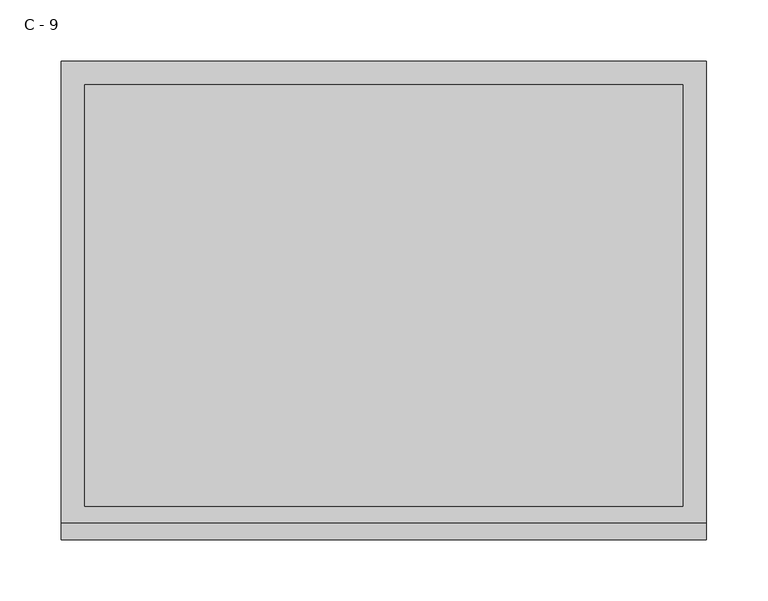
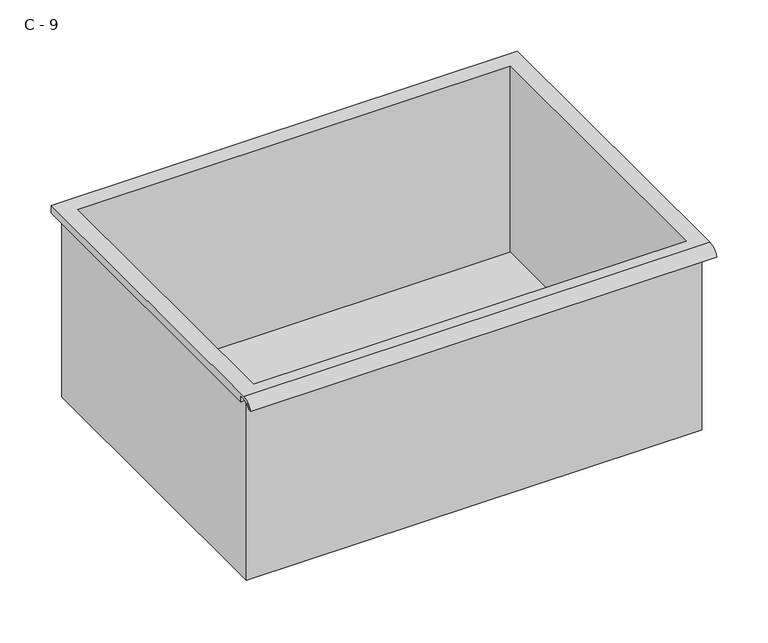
"""IFC4 building model written with IfcOpenShell, lengths in millimetres: furniture geometry, HermanMiller_CoStruc_CO207_Drawer : C - 9."""

import ifcopenshell
import ifcopenshell.guid

model = None  # the IFC model being written
_history = None  # IfcOwnerHistory: only IFC2X3 demands one
_inside = {}  # id of a spatial element -> (the spatial element, [elements in it])
_under = {}  # id of a project, library or spatial element -> (it, [spatial elements below it])
_declared = {}  # id of a project -> (the project, [libraries it declares])
_typed = {}  # id of a type object -> (the type object, [elements of that type])
_made_of = {}  # id of a material, layer set ... -> (it, [elements and type objects made of it])


def new_model(schema):
    """Start an empty IFC model of exactly this schema.

    Asked for "IFC4X3", IfcOpenShell would pick the latest addendum, in which some entities
    have other attributes; the version numbers below select the first issue.
    IFC2X3 requires an IfcOwnerHistory on every rooted entity: one is made here for all.
    """
    global model, _history
    if schema == "IFC4X3":
        model = ifcopenshell.file(schema_version=(4, 3, 0, 0))
    else:
        model = ifcopenshell.file(schema=schema)
    _inside.clear()
    _under.clear()
    _declared.clear()
    _typed.clear()
    _made_of.clear()
    _history = None
    if model.schema == "IFC2X3":
        org = make("IfcOrganization", Name="unknown")
        user = make(
            "IfcPersonAndOrganization",
            ThePerson=make("IfcPerson", FamilyName="unknown"),
            TheOrganization=org,
        )
        app = make(
            "IfcApplication",
            ApplicationDeveloper=org,
            Version="unknown",
            ApplicationFullName="unknown",
            ApplicationIdentifier="unknown",
        )
        _history = make(
            "IfcOwnerHistory",
            OwningUser=user,
            OwningApplication=app,
            ChangeAction="ADDED",
            CreationDate=0,
        )
    return model


def make(cls, **values):
    """One entity of the class cls with the attributes given. An attribute that is None is left unset."""
    return model.create_entity(
        cls, **{name: value for name, value in values.items() if value is not None}
    )


def rooted(cls, **values):
    """An entity with a GlobalId (a new one), such as an element, a storey or a relation."""
    return make(cls, GlobalId=ifcopenshell.guid.new(), OwnerHistory=_history, **values)


def si_unit(unit_type, name, prefix=None):
    """IfcSIUnit, for example si_unit("LENGTHUNIT", "METRE", prefix="MILLI")."""
    return make("IfcSIUnit", UnitType=unit_type, Prefix=prefix, Name=name)


def assignment(units):
    """IfcUnitAssignment: the units of a project."""
    return None if units is None else make("IfcUnitAssignment", Units=units)


def point(xyz):
    """IfcCartesianPoint."""
    return None if xyz is None else make("IfcCartesianPoint", Coordinates=xyz)


def direction(xyz):
    """IfcDirection."""
    return None if xyz is None else make("IfcDirection", DirectionRatios=xyz)


def frame(location, z_axis=None, x_axis=None):
    """IfcAxis2Placement3D, a coordinate frame: its origin and axes. An axis left out is left unset."""
    return make(
        "IfcAxis2Placement3D",
        Location=point(location),
        Axis=direction(z_axis),
        RefDirection=direction(x_axis),
    )


def origin():
    """The frame at (0, 0, 0) with its axes left unset."""
    return frame((0.0, 0.0, 0.0))


def place(relative_to, where):
    """IfcLocalPlacement: puts the frame where relative to a parent placement (None: the world)."""
    return make(
        "IfcLocalPlacement", PlacementRelTo=relative_to, RelativePlacement=where
    )


def context(
    kind, dimensions, precision=None, world=None, true_north=None, identifier=None
):
    """IfcGeometricRepresentationContext, for example the 3D "Model" context."""
    return make(
        "IfcGeometricRepresentationContext",
        ContextIdentifier=identifier,
        ContextType=kind,
        CoordinateSpaceDimension=dimensions,
        Precision=precision,
        WorldCoordinateSystem=world,
        TrueNorth=true_north,
    )


def project(units=None, contexts=None):
    """IfcProject with its units and contexts."""
    return rooted(
        "IfcProject",
        Name="project",
        RepresentationContexts=contexts,
        UnitsInContext=assignment(units),
    )


def spatial(cls, under=None, at=None, **own):
    """A site, building, storey or space (cls), placed at a placement, below another one or the project."""
    s = rooted(cls, ObjectPlacement=at, **own)
    if under is not None:
        _under.setdefault(under.id(), (under, []))[1].append(s)
    return s


def polyline(points):
    """IfcPolyline through the points."""
    return make("IfcPolyline", Points=[point(p) for p in points])


def circle_curve(where, radius):
    """IfcCircle in the frame where."""
    return make("IfcCircle", Position=where, Radius=radius)


def shape(context_of_items, identifier, shape_type, items):
    """IfcShapeRepresentation: the items that make up one representation, for example the "Body"."""
    return make(
        "IfcShapeRepresentation",
        ContextOfItems=context_of_items,
        RepresentationIdentifier=identifier,
        RepresentationType=shape_type,
        Items=items,
    )


def source(mapping_origin, context_of_items, identifier, shape_type, items):
    """IfcRepresentationMap: a shape defined once, which mapped items show again and again."""
    return make(
        "IfcRepresentationMap",
        MappingOrigin=mapping_origin,
        MappedRepresentation=shape(context_of_items, identifier, shape_type, items),
    )


def transform(
    local_origin,
    x_axis=None,
    y_axis=None,
    z_axis=None,
    scale=None,
    scale2=None,
    scale3=None,
    uniform=True,
):
    """IfcCartesianTransformationOperator3D, or its non-uniform kind. x_axis, y_axis, z_axis: its Axis1, 2, 3."""
    if uniform:
        return make(
            "IfcCartesianTransformationOperator3D",
            Axis1=direction(x_axis),
            Axis2=direction(y_axis),
            LocalOrigin=point(local_origin),
            Scale=scale,
            Axis3=direction(z_axis),
        )
    return make(
        "IfcCartesianTransformationOperator3DnonUniform",
        Axis1=direction(x_axis),
        Axis2=direction(y_axis),
        LocalOrigin=point(local_origin),
        Scale=scale,
        Axis3=direction(z_axis),
        Scale2=scale2,
        Scale3=scale3,
    )


def mapped(mapping_source, mapping_target):
    """IfcMappedItem: shows the shape of a source again, moved by a transform."""
    return make(
        "IfcMappedItem", MappingSource=mapping_source, MappingTarget=mapping_target
    )


def made_of(thing, what):
    """Note that an element or type object is made of a material, layer set ...; save() writes the relation."""
    if what is not None:
        _made_of.setdefault(what.id(), (what, []))[1].append(thing)
    return thing


def element(
    cls,
    number,
    at=None,
    inside=None,
    cuts=None,
    type_object=None,
    material=None,
    context=None,
    identifier="Body",
    shape_type=None,
    held_by="IfcProductDefinitionShape",
    body=None,
    shapes=None,
    **own,
):
    """One element of the class cls, such as IfcWall. Its Tag is "e" and its number.

    at: its placement. inside: the storey or other place that contains it. cuts: it is an
    opening in that element (IfcRelVoidsElement). A single representation is given by context,
    identifier, shape_type and body (its items); several are given by shapes. held_by: the class
    of the entity that holds the representations. save() writes the other relations.
    """
    e = rooted(cls, Tag="e%d" % number, ObjectPlacement=at, **own)
    if body is not None:
        shapes = [shape(context, identifier, shape_type, body)]
    if shapes is not None:
        e.Representation = make(held_by, Representations=shapes)
    if inside is not None:
        _inside.setdefault(inside.id(), (inside, []))[1].append(e)
    if cuts is not None:
        rooted(
            "IfcRelVoidsElement", RelatingBuildingElement=cuts, RelatedOpeningElement=e
        )
    if type_object is not None:
        _typed.setdefault(type_object.id(), (type_object, []))[1].append(e)
    return made_of(e, material)


def aggregate(whole, parts):
    """IfcRelAggregates: a whole, such as a stair, and the parts it consists of."""
    return rooted("IfcRelAggregates", RelatingObject=whole, RelatedObjects=parts)


def save(model, path):
    """Write the relations noted so far, then the file.

    IfcRelAggregates (storeys below a building ...), IfcRelContainedInSpatialStructure (elements
    in a storey), IfcRelDefinesByType, IfcRelAssociatesMaterial and IfcRelDeclares: one each for
    every whole, place, type object, material and project.
    """
    for whole, parts in _under.values():
        aggregate(whole, parts)
    for where, things in _inside.values():
        rooted(
            "IfcRelContainedInSpatialStructure",
            RelatedElements=things,
            RelatingStructure=where,
        )
    for kind, things in _typed.values():
        rooted("IfcRelDefinesByType", RelatedObjects=things, RelatingType=kind)
    for what, things in _made_of.values():
        rooted("IfcRelAssociatesMaterial", RelatedObjects=things, RelatingMaterial=what)
    for by, libraries in _declared.values():
        rooted("IfcRelDeclares", RelatingContext=by, RelatedDefinitions=libraries)
    model.write(path)


def plane_surface(at):
    """IfcPlane: the flat surface through the origin of the frame at, square to its z axis."""
    return make("IfcPlane", Position=at)


def cylinder_surface(at, radius):
    """IfcCylindricalSurface: all points at the distance radius from the z axis of the frame at."""
    return make("IfcCylindricalSurface", Position=at, Radius=radius)


def revolved_surface(curve, axis_point, axis_direction):
    """IfcSurfaceOfRevolution: the curve turned about the line through axis_point along axis_direction."""
    return make(
        "IfcSurfaceOfRevolution",
        SweptCurve=make("IfcArbitraryOpenProfileDef", ProfileType="CURVE", Curve=curve),
        AxisPosition=make("IfcAxis1Placement", Location=point(axis_point), Axis=direction(axis_direction)),
    )


def advanced_brep(points, edges, surfaces, faces):
    """IfcAdvancedBrep: a solid bounded by faces that lie on surfaces and meet in shared edges.

    An edge is (start, end): straight between two places in points (the first is 0);
    or (start, end, curve); or (start, end, curve, False) where it runs against its curve.
    A face is (place in surfaces, loops), or (place, loops, False) where it looks against
    its surface's normal. A loop lists edges by number (the first is 1), with a minus sign
    where the edge is run from its end to its start. The first loop is the outer one.
    """
    corners = [point(p) for p in points]
    vertices = [make("IfcVertexPoint", VertexGeometry=c) for c in corners]
    made = []
    for start, end, *more in edges:
        made.append(
            make(
                "IfcEdgeCurve",
                EdgeStart=vertices[start],
                EdgeEnd=vertices[end],
                EdgeGeometry=more[0] if more else make("IfcPolyline", Points=[corners[start], corners[end]]),
                SameSense=more[1] if len(more) > 1 else True,
            )
        )
    hull = []
    for where, loops, *sense in faces:
        bounds = []
        for j, loop in enumerate(loops):
            ring = [make("IfcOrientedEdge", EdgeElement=made[abs(k) - 1], Orientation=k > 0) for k in loop]
            bounds.append(
                make(
                    "IfcFaceOuterBound" if j == 0 else "IfcFaceBound",
                    Bound=make("IfcEdgeLoop", EdgeList=ring),
                    Orientation=True,
                )
            )
        hull.append(make("IfcAdvancedFace", Bounds=bounds, FaceSurface=surfaces[where], SameSense=sense[0] if sense else True))
    return make("IfcAdvancedBrep", Outer=make("IfcClosedShell", CfsFaces=hull))


def c_9_91e5ef83(model_context):
    return source(origin(), model_context, "Body", "AdvancedBrep", [
        advanced_brep(
        [(-257.1076517, -176.2125, 189.70752), (257.2423483, -176.2125, 189.70752), (257.2423483, -176.2125, 405.60752), (263.5923483, -176.2125, 405.60752), (263.5923483, -176.2125, 411.9146541), (-263.4576517, -176.2125, 411.9146541), (-263.4576517, -176.2125, 405.60752), (-257.1076517, -176.2125, 405.60752), (257.2423483, 185.7375, 189.70752), (-257.1076517, 185.7375, 189.70752), (-257.1076517, 185.7375, 405.60752), (257.2423483, 185.7375, 405.60752), (263.5923483, -181.6070544, 415.13252), (263.5923483, 195.2625, 415.13252), (-263.4576517, 195.2625, 415.13252), (-263.4576517, -181.6070544, 415.13252), (244.5423483, -168.275, 415.13252), (-244.4076517, -168.275, 415.13252), (-244.4076517, 176.2125, 415.13252), (244.5423483, 176.2125, 415.13252), (263.5923483, -195.2625, 405.60752), (263.5923483, -191.8280601, 405.60752), (263.5923483, -180.4714815, 411.9146541), (263.5923483, 195.2625, 405.60752), (-263.4576517, 195.2625, 405.60752), (-263.4576517, -180.4714815, 411.9146541), (-263.4576517, -191.8280601, 405.60752), (-263.4576517, -195.2625, 405.60752), (-244.4076517, -168.275, 192.7336919), (244.5423483, -168.275, 192.7336919), (244.5423483, 176.2125, 192.7336919), (-244.4076517, 176.2125, 192.7336919)],
        [
            (0, 1),
            (1, 2),
            (2, 3),
            (3, 4),
            (4, 5),
            (5, 6),
            (6, 7),
            (7, 0),
            (8, 9),
            (9, 10),
            (10, 11),
            (11, 8),
            (0, 9),
            (8, 1),
            (11, 2),
            (12, 13),
            (13, 14),
            (14, 15),
            (15, 12),
            (16, 17),
            (17, 18),
            (18, 19),
            (19, 16),
            (7, 10),
            (12, 20, circle_curve(frame((263.5923483, -181.6070544, 400.5815059), z_axis=(1.0, 0.0, 0.0), x_axis=(0.0, 1.0, 0.0)), 14.5510141)),
            (20, 21),
            (21, 22, circle_curve(frame((263.5923483, -181.6070544, 400.5815059), z_axis=(-1.0, 0.0, 0.0), x_axis=(0.0, 1.0, 0.0)), 11.3898979)),
            (22, 4),
            (3, 23),
            (23, 13),
            (14, 24),
            (24, 6),
            (5, 25),
            (25, 26, circle_curve(frame((-263.4576517, -181.6070544, 400.5815059), z_axis=(1.0, 0.0, 0.0), x_axis=(0.0, 1.0, 0.0)), 11.3898979)),
            (26, 27),
            (27, 15, circle_curve(frame((-263.4576517, -181.6070544, 400.5815059), z_axis=(-1.0, 0.0, 0.0), x_axis=(0.0, 1.0, 0.0)), 14.5510141)),
            (27, 20),
            (26, 21),
            (25, 22),
            (24, 23),
            (28, 29),
            (29, 30),
            (30, 31),
            (31, 28),
            (28, 17),
            (16, 29),
            (19, 30),
            (18, 31),
        ],
        [
            plane_surface(frame((257.2423483, -176.2125, 189.70752), z_axis=(0.0, -1.0, 0.0), x_axis=(1.0, 0.0, 0.0))),
            plane_surface(frame((257.2423483, 185.7375, 189.70752), z_axis=(0.0, 1.0, 0.0), x_axis=(-1.0, 0.0, 0.0))),
            plane_surface(frame((-257.1076517, -176.2125, 189.70752), z_axis=(0.0, 0.0, -1.0), x_axis=(0.0, 1.0, 0.0))),
            plane_surface(frame((257.2423483, -176.2125, 189.70752), z_axis=(1.0, 0.0, 0.0), x_axis=(0.0, 1.0, 0.0))),
            plane_surface(frame((257.2423483, -176.2125, 415.13252), z_axis=(0.0, 0.0, 1.0), x_axis=(0.0, 1.0, 0.0))),
            plane_surface(frame((-257.1076517, -176.2125, 415.13252), z_axis=(-1.0, 0.0, 0.0), x_axis=(0.0, 1.0, 0.0))),
            plane_surface(frame((263.5923483, 195.2625, 415.13252), z_axis=(1.0, 0.0, 0.0), x_axis=(0.0, -1.0, 0.0))),
            plane_surface(frame((-263.4576517, 195.2625, 415.13252), z_axis=(-1.0, 0.0, 0.0), x_axis=(0.0, 1.0, 0.0))),
            cylinder_surface(frame((-263.4576517, -181.6070544, 400.5815059), z_axis=(1.0, 0.0, 0.0), x_axis=(0.0, 1.0, 0.0)), 14.5510141),
            plane_surface(frame((263.5923483, -195.2625, 405.60752), z_axis=(0.0, -7.232115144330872e-12, -1.0), x_axis=(-1.0, 0.0, 0.0))),
            revolved_surface(polyline([(-263.4576517, -170.21715650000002, 400.5815059), (263.59234829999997, -170.21715650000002, 400.5815059)]), (-263.4576517, -181.6070544, 400.5815059), (-1.0, 0.0, 0.0)),
            plane_surface(frame((263.5923483, -180.4714815, 411.9146541), z_axis=(0.0, -1.7893192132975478e-11, -1.0), x_axis=(-1.0, 0.0, 0.0))),
            plane_surface(frame((263.5923483, -176.2125, 405.60752), z_axis=(0.0, 0.0, -1.0), x_axis=(-1.0, 0.0, 0.0))),
            plane_surface(frame((263.5923483, 195.2625, 405.60752), z_axis=(0.0, 1.0, 0.0), x_axis=(-1.0, 0.0, 0.0))),
            plane_surface(frame((244.5423483, -168.275, 192.7336919), z_axis=(0.0, 0.0, 1.0), x_axis=(-1.0, 0.0, 0.0))),
            plane_surface(frame((-244.4076517, -168.275, 415.13252), z_axis=(0.0, 1.0, 0.0), x_axis=(0.0, 0.0, -1.0))),
            plane_surface(frame((244.5423483, -168.275, 415.13252), z_axis=(-1.0, 0.0, 0.0), x_axis=(0.0, 0.0, -1.0))),
            plane_surface(frame((244.5423483, 176.2125, 415.13252), z_axis=(0.0, -1.0, 0.0), x_axis=(0.0, 0.0, -1.0))),
            plane_surface(frame((-244.4076517, 176.2125, 415.13252), z_axis=(1.0, 0.0, 0.0), x_axis=(0.0, 0.0, -1.0))),
        ],
        [
            (0, [[1, 2, 3, 4, 5, 6, 7, 8]]),
            (1, [[9, 10, 11, 12]]),
            (2, [[-1, 13, -9, 14]]),
            (3, [[-14, -12, 15, -2]]),
            (4, [[16, 17, 18, 19], [20, 21, 22, 23]]),
            (5, [[-13, -8, 24, -10]]),
            (6, [[-16, 25, 26, 27, 28, -4, 29, 30]]),
            (7, [[31, 32, -6, 33, 34, 35, 36, -18]]),
            (8, [[-25, -19, -36, 37]]),
            (9, [[-26, -37, -35, 38]]),
            (10, [[-27, -38, -34, 39]]),
            (11, [[-28, -39, -33, -5]]),
            (12, [[-29, -3, -15, -11, -24, -7, -32, 40]]),
            (13, [[-30, -40, -31, -17]]),
            (14, [[41, 42, 43, 44]]),
            (15, [[-41, 45, -20, 46]]),
            (16, [[-42, -46, -23, 47]]),
            (17, [[-43, -47, -22, 48]]),
            (18, [[-44, -48, -21, -45]]),
        ],
    ),
    ])


if __name__ == "__main__":
    model = new_model("IFC4")
    model_context = context("Model", 3, world=origin())
    ifc_project = project(units=[si_unit("LENGTHUNIT", "METRE", prefix="MILLI")], contexts=[model_context])
    site = spatial("IfcSite", under=ifc_project)
    building = spatial("IfcBuilding", under=site)
    placement = place(None, origin())
    c_9_shape = c_9_91e5ef83(model_context)
    element("IfcFurniture", 1, ObjectType="HermanMiller_CoStruc_CO207_Drawer : C - 9", at=placement, inside=building, context=model_context, shape_type="MappedRepresentation", body=[
        mapped(c_9_shape, transform((0.0, 0.0, 0.0), x_axis=(1.0, 0.0, 0.0), y_axis=(0.0, 1.0, 0.0), z_axis=(0.0, 0.0, 1.0))),
    ])
    save(model, "model.ifc")
